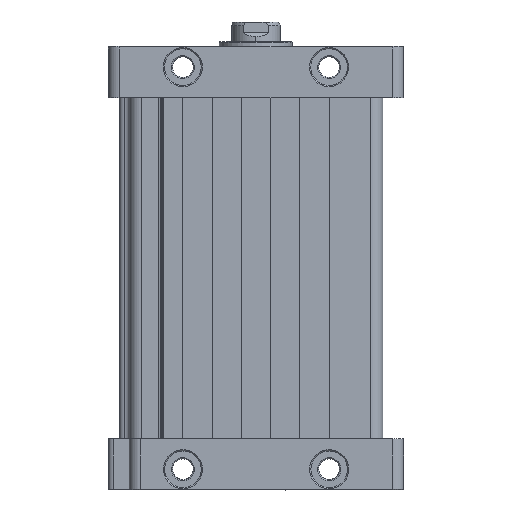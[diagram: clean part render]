
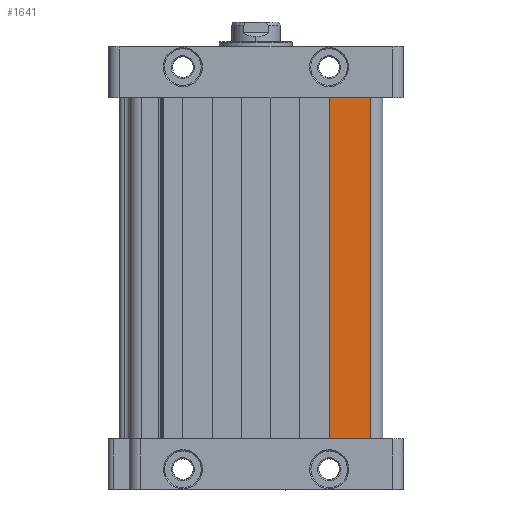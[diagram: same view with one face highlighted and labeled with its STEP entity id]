
A CAD part, left-side view. The second image highlights one B-rep face of the part: STEP entity #1641.
In plain terms, the highlighted planar face has unit normal (-1, 0, 0).
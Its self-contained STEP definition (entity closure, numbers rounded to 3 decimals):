
#914 = DIRECTION ( 'NONE',  ( 0., 0., 1. ) ) ;
#1330 = DIRECTION ( 'NONE',  ( 1., 0., 0. ) ) ;
#1397 = DIRECTION ( 'NONE',  ( 0., 1., 0. ) ) ;
#1641 = ADVANCED_FACE ( 'NONE', ( #13996 ), #6609, .F. ) ;
#2108 = EDGE_CURVE ( 'NONE', #14099, #5929, #15214, .T. ) ;
#2536 = CARTESIAN_POINT ( 'NONE',  ( -24.5, 47., 29. ) ) ;
#2750 = EDGE_LOOP ( 'NONE', ( #12518, #3591, #17042, #12587 ) ) ;
#3541 = DIRECTION ( 'NONE',  ( 0., -1., 0. ) ) ;
#3591 = ORIENTED_EDGE ( 'NONE', *, *, #5125, .T. ) ;
#4474 = VERTEX_POINT ( 'NONE', #16863 ) ;
#4659 = VECTOR ( 'NONE', #914, 1000. ) ;
#4676 = CARTESIAN_POINT ( 'NONE',  ( -24.5, -47., 29. ) ) ;
#4810 = LINE ( 'NONE', #4676, #13474 ) ;
#5034 = VECTOR ( 'NONE', #5218, 1000. ) ;
#5125 = EDGE_CURVE ( 'NONE', #14099, #16784, #14763, .T. ) ;
#5218 = DIRECTION ( 'NONE',  ( 0., -1., 0. ) ) ;
#5494 = EDGE_CURVE ( 'NONE', #5929, #4474, #12488, .T. ) ;
#5929 = VERTEX_POINT ( 'NONE', #8511 ) ;
#6609 = PLANE ( 'NONE',  #11892 ) ;
#6705 = VECTOR ( 'NONE', #3541, 1000. ) ;
#7362 = CARTESIAN_POINT ( 'NONE',  ( -24.5, -47., -111. ) ) ;
#8511 = CARTESIAN_POINT ( 'NONE',  ( -24.5, -30., 29. ) ) ;
#10483 = CARTESIAN_POINT ( 'NONE',  ( -24.5, 47., -111. ) ) ;
#10555 = CARTESIAN_POINT ( 'NONE',  ( -24.5, -30., -111. ) ) ;
#11892 = AXIS2_PLACEMENT_3D ( 'NONE', #2536, #1330, #1397 ) ;
#12488 = LINE ( 'NONE', #12626, #6705 ) ;
#12518 = ORIENTED_EDGE ( 'NONE', *, *, #2108, .F. ) ;
#12558 = DIRECTION ( 'NONE',  ( 0., 0., -1. ) ) ;
#12587 = ORIENTED_EDGE ( 'NONE', *, *, #5494, .F. ) ;
#12626 = CARTESIAN_POINT ( 'NONE',  ( -24.5, 47., 29. ) ) ;
#12708 = CARTESIAN_POINT ( 'NONE',  ( -24.5, -30., 29. ) ) ;
#13474 = VECTOR ( 'NONE', #12558, 1000. ) ;
#13996 = FACE_OUTER_BOUND ( 'NONE', #2750, .T. ) ;
#14099 = VERTEX_POINT ( 'NONE', #10555 ) ;
#14763 = LINE ( 'NONE', #10483, #5034 ) ;
#15214 = LINE ( 'NONE', #12708, #4659 ) ;
#16780 = EDGE_CURVE ( 'NONE', #4474, #16784, #4810, .T. ) ;
#16784 = VERTEX_POINT ( 'NONE', #7362 ) ;
#16863 = CARTESIAN_POINT ( 'NONE',  ( -24.5, -47., 29. ) ) ;
#17042 = ORIENTED_EDGE ( 'NONE', *, *, #16780, .F. ) ;
